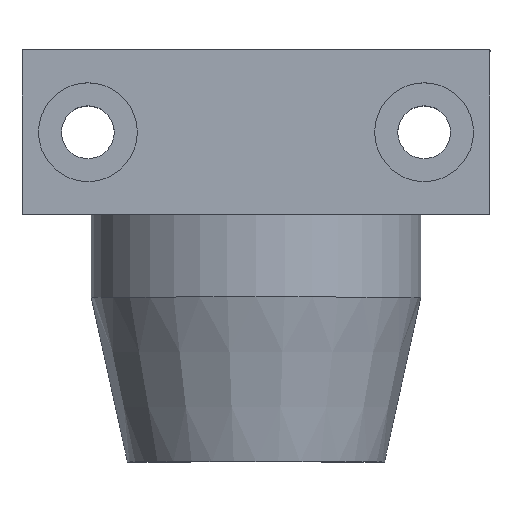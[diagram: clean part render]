
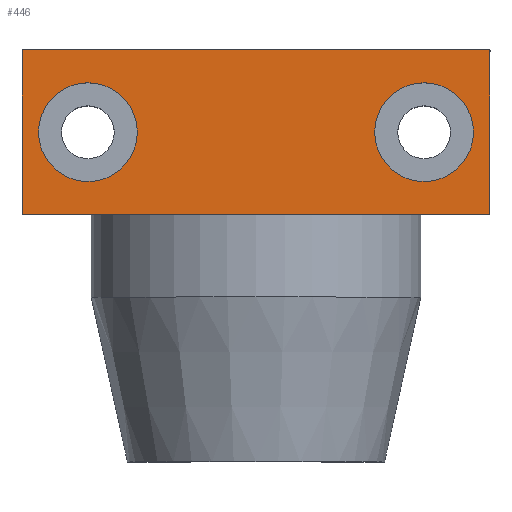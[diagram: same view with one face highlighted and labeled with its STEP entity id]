
A CAD part, top view. The second image highlights one B-rep face of the part: STEP entity #446.
In plain terms, the highlighted planar face has unit normal (0, 0, 1).
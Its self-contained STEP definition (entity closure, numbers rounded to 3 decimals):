
#19=FACE_BOUND('',#76,.T.);
#20=FACE_BOUND('',#77,.T.);
#27=PLANE('',#499);
#46=FACE_OUTER_BOUND('',#75,.T.);
#75=EDGE_LOOP('',(#341,#342,#343,#344,#345));
#76=EDGE_LOOP('',(#346));
#77=EDGE_LOOP('',(#347));
#95=LINE('',#684,#132);
#110=LINE('',#735,#147);
#111=LINE('',#737,#148);
#112=LINE('',#739,#149);
#113=LINE('',#740,#150);
#132=VECTOR('',#541,10.);
#147=VECTOR('',#594,10.);
#148=VECTOR('',#597,10.);
#149=VECTOR('',#598,10.);
#150=VECTOR('',#599,10.);
#175=CIRCLE('',#489,3.);
#177=CIRCLE('',#493,3.);
#196=VERTEX_POINT('',#677);
#198=VERTEX_POINT('',#683);
#205=VERTEX_POINT('',#704);
#207=VERTEX_POINT('',#711);
#214=VERTEX_POINT('',#731);
#215=VERTEX_POINT('',#733);
#216=VERTEX_POINT('',#738);
#239=EDGE_CURVE('',#198,#196,#95,.T.);
#249=EDGE_CURVE('',#205,#205,#175,.T.);
#252=EDGE_CURVE('',#207,#207,#177,.T.);
#264=EDGE_CURVE('',#215,#214,#110,.T.);
#265=EDGE_CURVE('',#196,#214,#111,.T.);
#266=EDGE_CURVE('',#215,#216,#112,.T.);
#267=EDGE_CURVE('',#216,#198,#113,.T.);
#341=ORIENTED_EDGE('',*,*,#239,.T.);
#342=ORIENTED_EDGE('',*,*,#265,.T.);
#343=ORIENTED_EDGE('',*,*,#264,.F.);
#344=ORIENTED_EDGE('',*,*,#266,.T.);
#345=ORIENTED_EDGE('',*,*,#267,.T.);
#346=ORIENTED_EDGE('',*,*,#249,.T.);
#347=ORIENTED_EDGE('',*,*,#252,.T.);
#446=ADVANCED_FACE('',(#46,#19,#20),#27,.T.);
#489=AXIS2_PLACEMENT_3D('',#705,#564,#565);
#493=AXIS2_PLACEMENT_3D('',#712,#573,#574);
#499=AXIS2_PLACEMENT_3D('',#736,#595,#596);
#541=DIRECTION('',(1.,0.,0.));
#564=DIRECTION('center_axis',(0.,0.,
-1.));
#565=DIRECTION('ref_axis',(1.,0.,0.));
#573=DIRECTION('center_axis',(0.,0.,
-1.));
#574=DIRECTION('ref_axis',(1.,0.,0.));
#594=DIRECTION('',(0.,-1.,0.));
#595=DIRECTION('center_axis',(0.,0.,
1.));
#596=DIRECTION('ref_axis',(-1.,0.,0.));
#597=DIRECTION('',(1.,0.,0.));
#598=DIRECTION('',(-1.,0.,0.));
#599=DIRECTION('',(0.,-1.,0.));
#677=CARTESIAN_POINT('',(-0.274,-370.,17.084));
#683=CARTESIAN_POINT('',(-14.474,-370.,17.084));
#684=CARTESIAN_POINT('',(6.826,-370.,17.084));
#704=CARTESIAN_POINT('',(6.926,-365.,17.084));
#705=CARTESIAN_POINT('Origin',(9.926,-365.,17.084));
#711=CARTESIAN_POINT('',(-13.474,-365.,17.084));
#712=CARTESIAN_POINT('Origin',(-10.474,-365.,17.084));
#731=CARTESIAN_POINT('',(13.926,-370.,17.084));
#733=CARTESIAN_POINT('',(13.926,-360.,17.084));
#735=CARTESIAN_POINT('',(13.926,-360.,17.084));
#736=CARTESIAN_POINT('Origin',(13.926,-360.,17.084));
#737=CARTESIAN_POINT('',(6.826,-370.,17.084));
#738=CARTESIAN_POINT('',(-14.474,-360.,17.084));
#739=CARTESIAN_POINT('',(13.926,-360.,17.084));
#740=CARTESIAN_POINT('',(-14.474,-360.,17.084));
